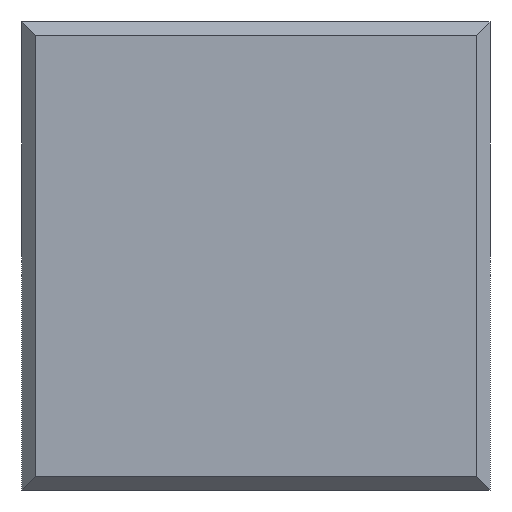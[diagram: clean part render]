
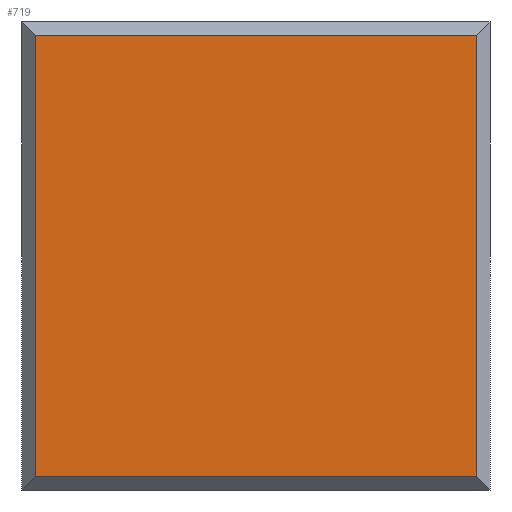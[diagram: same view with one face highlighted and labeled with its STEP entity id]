
A CAD part, front view. The second image highlights one B-rep face of the part: STEP entity #719.
In plain terms, the highlighted planar face has unit normal (0, -1, 0).
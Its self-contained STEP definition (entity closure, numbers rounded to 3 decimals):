
#10 = VECTOR ( 'NONE', #757, 1000. ) ;
#28 = VECTOR ( 'NONE', #750, 1000. ) ;
#131 = DIRECTION ( 'NONE',  ( 0., 0., -1. ) ) ;
#144 = CARTESIAN_POINT ( 'NONE',  ( 16.5, -14., 17.5 ) ) ;
#204 = CARTESIAN_POINT ( 'NONE',  ( 16.5, -14., 16.5 ) ) ;
#209 = LINE ( 'NONE', #352, #769 ) ;
#275 = VECTOR ( 'NONE', #131, 1000. ) ;
#308 = VERTEX_POINT ( 'NONE', #204 ) ;
#340 = CARTESIAN_POINT ( 'NONE',  ( 16.5, -14., -16.5 ) ) ;
#349 = EDGE_CURVE ( 'NONE', #308, #453, #670, .T. ) ;
#352 = CARTESIAN_POINT ( 'NONE',  ( 17.5, -14., -16.5 ) ) ;
#362 = AXIS2_PLACEMENT_3D ( 'NONE', #532, #492, #479 ) ;
#391 = DIRECTION ( 'NONE',  ( -1., 0., 0. ) ) ;
#425 = VERTEX_POINT ( 'NONE', #712 ) ;
#450 = LINE ( 'NONE', #751, #10 ) ;
#453 = VERTEX_POINT ( 'NONE', #340 ) ;
#479 = DIRECTION ( 'NONE',  ( -1., 0., 0. ) ) ;
#492 = DIRECTION ( 'NONE',  ( 0., -1., 0. ) ) ;
#532 = CARTESIAN_POINT ( 'NONE',  ( 16.5, -14., 16.5 ) ) ;
#550 = PLANE ( 'NONE',  #362 ) ;
#603 = ORIENTED_EDGE ( 'NONE', *, *, #730, .F. ) ;
#608 = FACE_OUTER_BOUND ( 'NONE', #784, .T. ) ;
#639 = ORIENTED_EDGE ( 'NONE', *, *, #691, .T. ) ;
#670 = LINE ( 'NONE', #144, #275 ) ;
#672 = LINE ( 'NONE', #674, #28 ) ;
#674 = CARTESIAN_POINT ( 'NONE',  ( 17.5, -14., 16.5 ) ) ;
#691 = EDGE_CURVE ( 'NONE', #864, #425, #450, .T. ) ;
#701 = ORIENTED_EDGE ( 'NONE', *, *, #923, .F. ) ;
#712 = CARTESIAN_POINT ( 'NONE',  ( -16.5, -14., -16.5 ) ) ;
#719 = ADVANCED_FACE ( 'NONE', ( #608 ), #550, .T. ) ;
#730 = EDGE_CURVE ( 'NONE', #453, #425, #209, .T. ) ;
#750 = DIRECTION ( 'NONE',  ( 1., 0., 0. ) ) ;
#751 = CARTESIAN_POINT ( 'NONE',  ( -16.5, -14., 16.5 ) ) ;
#757 = DIRECTION ( 'NONE',  ( 0., 0., -1. ) ) ;
#769 = VECTOR ( 'NONE', #391, 1000. ) ;
#784 = EDGE_LOOP ( 'NONE', ( #701, #639, #603, #928 ) ) ;
#864 = VERTEX_POINT ( 'NONE', #925 ) ;
#923 = EDGE_CURVE ( 'NONE', #864, #308, #672, .T. ) ;
#925 = CARTESIAN_POINT ( 'NONE',  ( -16.5, -14., 16.5 ) ) ;
#928 = ORIENTED_EDGE ( 'NONE', *, *, #349, .F. ) ;
